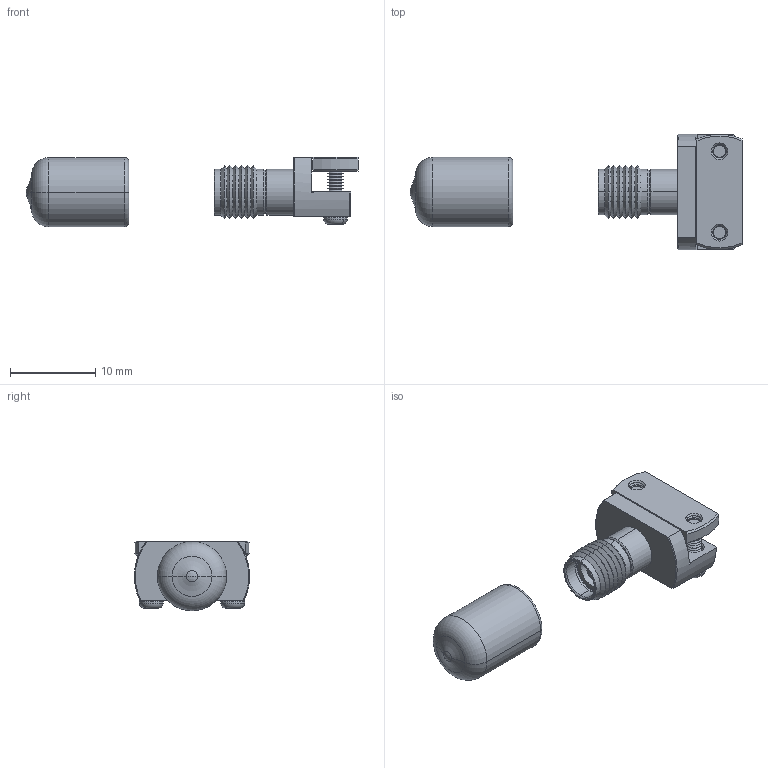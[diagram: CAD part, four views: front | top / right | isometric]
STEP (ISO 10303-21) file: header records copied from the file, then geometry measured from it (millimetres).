
FILE_DESCRIPTION (( 'STEP AP203' ), '1' );
FILE_NAME ('58-20003-44070E.STEP', '2019-12-11T01:00:27', ( '' ), ( '' ), 'SwSTEP 2.0', 'SolidWorks 2016', '' );
FILE_SCHEMA (( 'CONFIG_CONTROL_DESIGN' ));
Length unit declared in the file: millimetre
Products named in the file (19): 58-20003-44070E; 102-1416-700000A; 103-1870-226080A; 108-0065-900000B; 110-0012-440000B; 101-2198-440000C; 102-1139-700000C; 101-2196-440070B; 58-20003-44071E; 101-2426-440000A
Assembly tree (10 placements, depth 3):
  58-20003-44070E
    58-20003-44071E
      101-2196-440070B
      101-2426-440000A
      103-1870-226080A
      102-1139-700000C
      102-1416-700000A
      108-0065-900000B
    110-0012-440000B  x2
    101-2198-440000C
  102-1416-700000A
  101-2198-440000C
  102-1139-700000C
  108-0065-900000B
Bounding box: 38.91 x 13.5 x 8.15 mm (x, y, z)
Volume: 842.2 mm3; surface area: 1878.9 mm2
Topology: 9 solids, 9 shells, 524 faces, 1186 edges, 699 vertices
Faces by surface type: cone 266, cylinder 112, plane 96, torus 30, bspline 16, sphere 4
Entity records: 13922 total; most frequent: CARTESIAN_POINT 2407, DIRECTION 2252, ORIENTED_EDGE 1928, EDGE_CURVE 964, AXIS2_PLACEMENT_3D 932, VERTEX_POINT 575, CIRCLE 500, EDGE_LOOP 471
